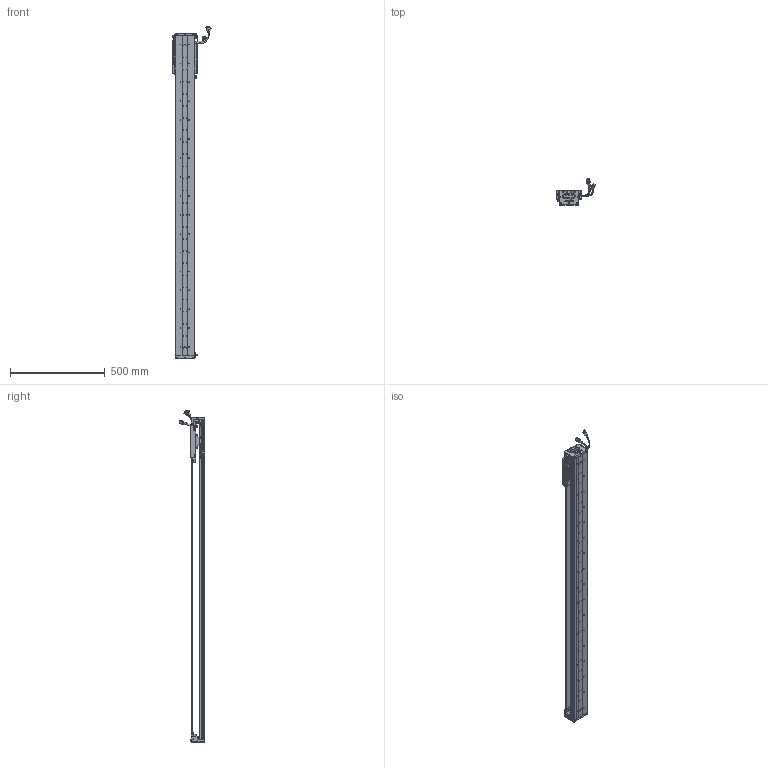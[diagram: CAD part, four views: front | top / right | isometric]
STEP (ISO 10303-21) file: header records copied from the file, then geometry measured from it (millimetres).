
FILE_DESCRIPTION (( 'STEP AP203' ), '1' );
FILE_NAME ('Z2-RY100D-1-L500-B-K.SLDASM_1450.step', '2021-05-17T02:36:25', ( '盈信电脑' ), ( '东莞市道滘镇水果街19号' ), 'SwSTEP 2.0', 'SolidWorks 2016', '' );
FILE_SCHEMA (( 'CONFIG_CONTROL_DESIGN' ));
Length unit declared in the file: millimetre
Products named in the file (36): Z2-RY100D-1-L500-B-K.SLDASM_1450; SEAL; SCALE; COVER; 080黍杅芛假蚾釱21遴; 覜茼ん672; SCALE-Part-1; SEAL-Part-1; 榋妏寠巭燃_暯_M2_2; PSLH080_PSLF2; SCREW-M1.6-1; Z2-RY100铝滑块（21款）; Z-RY100D覜茼んえ; SCALE-Part-2; COVER-Part-1; HARNESS-Part-1; Z2-RY100-L500詩湍90mm遵_1450; Z2-RY100D-500-倰第菁釱_1450; LABEL; SCREW-M1.6-2; SCREW-M1.7; LABEL-Part-1; Z-RY100D詩湍奻揤裔; SHIELDPLATE; 140蚥薯蝶輸; Z-RY100D詩湍狟揤裔; 140雄赽晤鎢ん堤盄; SCREW-M1.7-1; HARNESS-Part-2; 100-Z-臏賑輸盄裔(21遴); PBU_SHEET; HARNESS; Z-100詩湍傷裔啣; HOLDER0; SCREW-M1.6; SCREW-M1.6-3
Assembly tree (43 placements, depth 4):
  Z2-RY100D-1-L500-B-K.SLDASM_1450
    Z2-RY100D-500-倰第菁釱_1450
    Z2-RY100铝滑块（21款）
    PSLH080_PSLF2
      SCALE
        SCALE-Part-1
        SCALE-Part-2
      HARNESS
        HARNESS-Part-1
        HARNESS-Part-2
      LABEL
        LABEL-Part-1
      COVER
        COVER-Part-1
      SEAL
        SEAL-Part-1
      榋妏寠巭燃_暯_M2_2
      SHIELDPLATE
      SCREW-M1.7
      SCREW-M1.7-1
      PBU_SHEET
      SCREW-M1.6
      SCREW-M1.6-1
      SCREW-M1.6-2
      SCREW-M1.6-3
      HOLDER0
    080黍杅芛假蚾釱21遴
    Z-100詩湍傷裔啣  x2
    140蚥薯蝶輸  x2
    覜茼ん672  x3
    Z-RY100D覜茼んえ  x3
    100-Z-臏賑輸盄裔(21遴)
    140雄赽晤鎢ん堤盄
    Z2-RY100-L500詩湍90mm遵_1450
    Z-RY100D詩湍狟揤裔  x2
    Z-RY100D詩湍奻揤裔  x2
Bounding box: 205.83 x 136.11 x 1755.43 mm (x, y, z)
Volume: 3329304.3 mm3; surface area: 1308571.1 mm2
Topology: 38 solids, 38 shells, 2740 faces, 7329 edges, 4660 vertices
Faces by surface type: cylinder 1254, plane 1146, cone 218, torus 69, bspline 53
Entity records: 76693 total; most frequent: CARTESIAN_POINT 16152, DIRECTION 12225, ORIENTED_EDGE 11554, EDGE_CURVE 5777, AXIS2_PLACEMENT_3D 4537, VERTEX_POINT 3728, LINE 3151, VECTOR 3151
